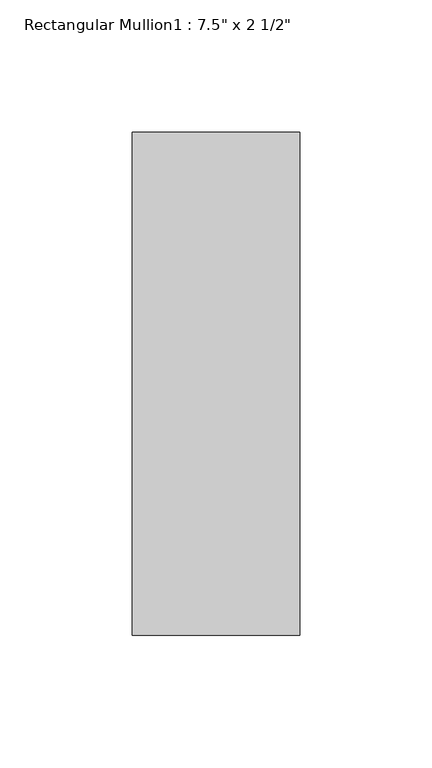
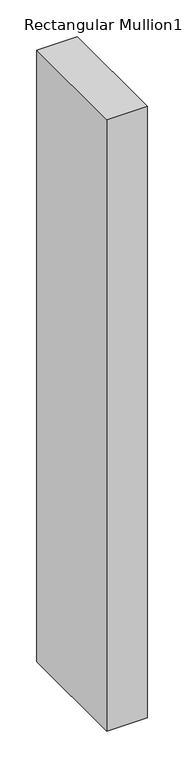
"""IFC4 building model written with IfcOpenShell, lengths in millimetres: member geometry."""

import ifcopenshell
import ifcopenshell.guid

model = None  # the IFC model being written
_history = None  # IfcOwnerHistory: only IFC2X3 demands one
_inside = {}  # id of a spatial element -> (the spatial element, [elements in it])
_under = {}  # id of a project, library or spatial element -> (it, [spatial elements below it])
_declared = {}  # id of a project -> (the project, [libraries it declares])
_typed = {}  # id of a type object -> (the type object, [elements of that type])
_made_of = {}  # id of a material, layer set ... -> (it, [elements and type objects made of it])


def new_model(schema):
    """Start an empty IFC model of exactly this schema.

    Asked for "IFC4X3", IfcOpenShell would pick the latest addendum, in which some entities
    have other attributes; the version numbers below select the first issue.
    IFC2X3 requires an IfcOwnerHistory on every rooted entity: one is made here for all.
    """
    global model, _history
    if schema == "IFC4X3":
        model = ifcopenshell.file(schema_version=(4, 3, 0, 0))
    else:
        model = ifcopenshell.file(schema=schema)
    _inside.clear()
    _under.clear()
    _declared.clear()
    _typed.clear()
    _made_of.clear()
    _history = None
    if model.schema == "IFC2X3":
        org = make("IfcOrganization", Name="unknown")
        user = make(
            "IfcPersonAndOrganization",
            ThePerson=make("IfcPerson", FamilyName="unknown"),
            TheOrganization=org,
        )
        app = make(
            "IfcApplication",
            ApplicationDeveloper=org,
            Version="unknown",
            ApplicationFullName="unknown",
            ApplicationIdentifier="unknown",
        )
        _history = make(
            "IfcOwnerHistory",
            OwningUser=user,
            OwningApplication=app,
            ChangeAction="ADDED",
            CreationDate=0,
        )
    return model


def make(cls, **values):
    """One entity of the class cls with the attributes given. An attribute that is None is left unset."""
    return model.create_entity(
        cls, **{name: value for name, value in values.items() if value is not None}
    )


def rooted(cls, **values):
    """An entity with a GlobalId (a new one), such as an element, a storey or a relation."""
    return make(cls, GlobalId=ifcopenshell.guid.new(), OwnerHistory=_history, **values)


def si_unit(unit_type, name, prefix=None):
    """IfcSIUnit, for example si_unit("LENGTHUNIT", "METRE", prefix="MILLI")."""
    return make("IfcSIUnit", UnitType=unit_type, Prefix=prefix, Name=name)


def assignment(units):
    """IfcUnitAssignment: the units of a project."""
    return None if units is None else make("IfcUnitAssignment", Units=units)


def point(xyz):
    """IfcCartesianPoint."""
    return None if xyz is None else make("IfcCartesianPoint", Coordinates=xyz)


def direction(xyz):
    """IfcDirection."""
    return None if xyz is None else make("IfcDirection", DirectionRatios=xyz)


def frame(location, z_axis=None, x_axis=None):
    """IfcAxis2Placement3D, a coordinate frame: its origin and axes. An axis left out is left unset."""
    return make(
        "IfcAxis2Placement3D",
        Location=point(location),
        Axis=direction(z_axis),
        RefDirection=direction(x_axis),
    )


def origin():
    """The frame at (0, 0, 0) with its axes left unset."""
    return frame((0.0, 0.0, 0.0))


def place(relative_to, where):
    """IfcLocalPlacement: puts the frame where relative to a parent placement (None: the world)."""
    return make(
        "IfcLocalPlacement", PlacementRelTo=relative_to, RelativePlacement=where
    )


def context(
    kind, dimensions, precision=None, world=None, true_north=None, identifier=None
):
    """IfcGeometricRepresentationContext, for example the 3D "Model" context."""
    return make(
        "IfcGeometricRepresentationContext",
        ContextIdentifier=identifier,
        ContextType=kind,
        CoordinateSpaceDimension=dimensions,
        Precision=precision,
        WorldCoordinateSystem=world,
        TrueNorth=true_north,
    )


def project(units=None, contexts=None):
    """IfcProject with its units and contexts."""
    return rooted(
        "IfcProject",
        Name="project",
        RepresentationContexts=contexts,
        UnitsInContext=assignment(units),
    )


def spatial(cls, under=None, at=None, **own):
    """A site, building, storey or space (cls), placed at a placement, below another one or the project."""
    s = rooted(cls, ObjectPlacement=at, **own)
    if under is not None:
        _under.setdefault(under.id(), (under, []))[1].append(s)
    return s


def polyline(points):
    """IfcPolyline through the points."""
    return make("IfcPolyline", Points=[point(p) for p in points])


def outline(outer, holes=None, kind="AREA"):
    """IfcArbitraryClosedProfileDef: a profile drawn as a closed curve; with holes, ...WithVoids."""
    if holes is None:
        return make("IfcArbitraryClosedProfileDef", ProfileType=kind, OuterCurve=outer)
    return make(
        "IfcArbitraryProfileDefWithVoids",
        ProfileType=kind,
        OuterCurve=outer,
        InnerCurves=holes,
    )


def extrude(swept, where, along, depth):
    """IfcExtrudedAreaSolid: the profile swept, set in the frame where, extruded along a direction by depth."""
    return make(
        "IfcExtrudedAreaSolid",
        SweptArea=swept,
        Position=where,
        ExtrudedDirection=direction(along),
        Depth=depth,
    )


def shape(context_of_items, identifier, shape_type, items):
    """IfcShapeRepresentation: the items that make up one representation, for example the "Body"."""
    return make(
        "IfcShapeRepresentation",
        ContextOfItems=context_of_items,
        RepresentationIdentifier=identifier,
        RepresentationType=shape_type,
        Items=items,
    )


def source(mapping_origin, context_of_items, identifier, shape_type, items):
    """IfcRepresentationMap: a shape defined once, which mapped items show again and again."""
    return make(
        "IfcRepresentationMap",
        MappingOrigin=mapping_origin,
        MappedRepresentation=shape(context_of_items, identifier, shape_type, items),
    )


def transform(
    local_origin,
    x_axis=None,
    y_axis=None,
    z_axis=None,
    scale=None,
    scale2=None,
    scale3=None,
    uniform=True,
):
    """IfcCartesianTransformationOperator3D, or its non-uniform kind. x_axis, y_axis, z_axis: its Axis1, 2, 3."""
    if uniform:
        return make(
            "IfcCartesianTransformationOperator3D",
            Axis1=direction(x_axis),
            Axis2=direction(y_axis),
            LocalOrigin=point(local_origin),
            Scale=scale,
            Axis3=direction(z_axis),
        )
    return make(
        "IfcCartesianTransformationOperator3DnonUniform",
        Axis1=direction(x_axis),
        Axis2=direction(y_axis),
        LocalOrigin=point(local_origin),
        Scale=scale,
        Axis3=direction(z_axis),
        Scale2=scale2,
        Scale3=scale3,
    )


def mapped(mapping_source, mapping_target):
    """IfcMappedItem: shows the shape of a source again, moved by a transform."""
    return make(
        "IfcMappedItem", MappingSource=mapping_source, MappingTarget=mapping_target
    )


def made_of(thing, what):
    """Note that an element or type object is made of a material, layer set ...; save() writes the relation."""
    if what is not None:
        _made_of.setdefault(what.id(), (what, []))[1].append(thing)
    return thing


def element(
    cls,
    number,
    at=None,
    inside=None,
    cuts=None,
    type_object=None,
    material=None,
    context=None,
    identifier="Body",
    shape_type=None,
    held_by="IfcProductDefinitionShape",
    body=None,
    shapes=None,
    **own,
):
    """One element of the class cls, such as IfcWall. Its Tag is "e" and its number.

    at: its placement. inside: the storey or other place that contains it. cuts: it is an
    opening in that element (IfcRelVoidsElement). A single representation is given by context,
    identifier, shape_type and body (its items); several are given by shapes. held_by: the class
    of the entity that holds the representations. save() writes the other relations.
    """
    e = rooted(cls, Tag="e%d" % number, ObjectPlacement=at, **own)
    if body is not None:
        shapes = [shape(context, identifier, shape_type, body)]
    if shapes is not None:
        e.Representation = make(held_by, Representations=shapes)
    if inside is not None:
        _inside.setdefault(inside.id(), (inside, []))[1].append(e)
    if cuts is not None:
        rooted(
            "IfcRelVoidsElement", RelatingBuildingElement=cuts, RelatedOpeningElement=e
        )
    if type_object is not None:
        _typed.setdefault(type_object.id(), (type_object, []))[1].append(e)
    return made_of(e, material)


def aggregate(whole, parts):
    """IfcRelAggregates: a whole, such as a stair, and the parts it consists of."""
    return rooted("IfcRelAggregates", RelatingObject=whole, RelatedObjects=parts)


def save(model, path):
    """Write the relations noted so far, then the file.

    IfcRelAggregates (storeys below a building ...), IfcRelContainedInSpatialStructure (elements
    in a storey), IfcRelDefinesByType, IfcRelAssociatesMaterial and IfcRelDeclares: one each for
    every whole, place, type object, material and project.
    """
    for whole, parts in _under.values():
        aggregate(whole, parts)
    for where, things in _inside.values():
        rooted(
            "IfcRelContainedInSpatialStructure",
            RelatedElements=things,
            RelatingStructure=where,
        )
    for kind, things in _typed.values():
        rooted("IfcRelDefinesByType", RelatedObjects=things, RelatingType=kind)
    for what, things in _made_of.values():
        rooted("IfcRelAssociatesMaterial", RelatedObjects=things, RelatingMaterial=what)
    for by, libraries in _declared.values():
        rooted("IfcRelDeclares", RelatingContext=by, RelatedDefinitions=libraries)
    model.write(path)


def member_27073ade(model_context):
    return source(origin(), model_context, "Body", "SweptSolid", [
        extrude(outline(polyline([(31.75, 165.1), (31.75, -25.4), (-31.75, -25.4), (-31.75, 165.1), (31.75, 165.1)])), frame((0.0, 0.0, -1016.0), z_axis=(0.0, 0.0, 1.0), x_axis=(1.0, 0.0, 0.0)), (0.0, 0.0, 1.0), 1016.0),
    ])


if __name__ == "__main__":
    model = new_model("IFC4")
    model_context = context("Model", 3, world=origin())
    ifc_project = project(units=[si_unit("LENGTHUNIT", "METRE", prefix="MILLI")], contexts=[model_context])
    site = spatial("IfcSite", under=ifc_project)
    building = spatial("IfcBuilding", under=site)
    placement = place(None, origin())
    member_shape = member_27073ade(model_context)
    element("IfcMember", 1, ObjectType="Rectangular Mullion1 : 7.5\" x 2 1/2\"", at=placement, inside=building, context=model_context, shape_type="MappedRepresentation", body=[
        mapped(member_shape, transform((0.0, 0.0, 0.0), x_axis=(1.0, 0.0, 0.0), y_axis=(0.0, 1.0, 0.0), z_axis=(0.0, 0.0, 1.0))),
    ])
    save(model, "model.ifc")
